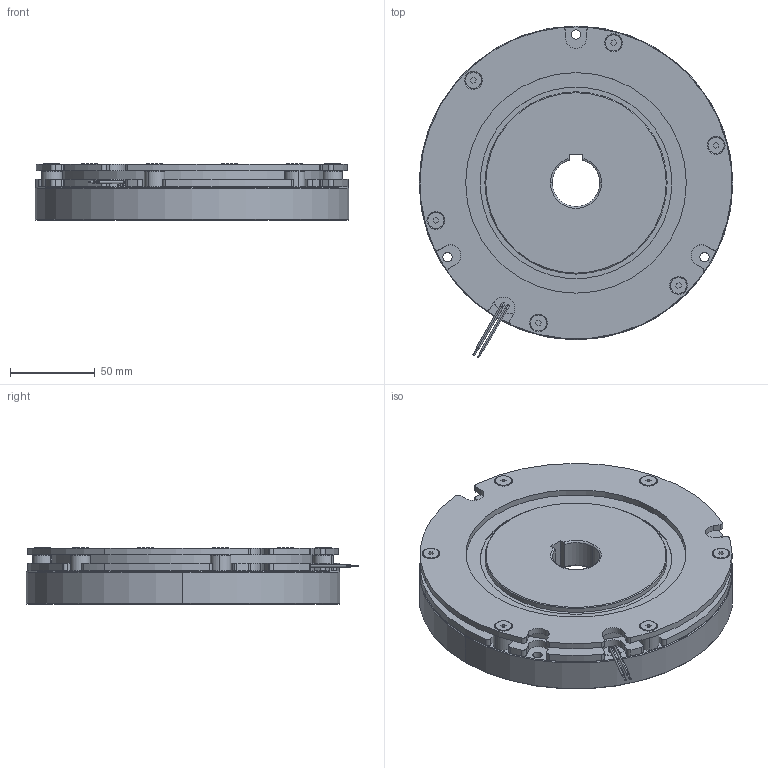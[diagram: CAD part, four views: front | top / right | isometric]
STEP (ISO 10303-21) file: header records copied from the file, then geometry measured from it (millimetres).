
FILE_DESCRIPTION (( 'STEP AP214' ), '1' );
FILE_NAME ('ÌÞÚ°·_BXR-16-20_A.STEP', '2017-08-08T10:57:58', ( 'MIKI' ), ( '' ), 'SwSTEP 2.0', 'SolidWorks 2012', '' );
FILE_SCHEMA (( 'AUTOMOTIVE_DESIGN' ));
Length unit declared in the file: millimetre
Products named in the file (1): 枌痚愷BXR-16-20_A
Bounding box: 185 x 195.69 x 33.11 mm (x, y, z)
Volume: 652754.6 mm3; surface area: 150988.4 mm2
Topology: 1 solids, 7 shells, 461 faces, 1110 edges, 712 vertices
Faces by surface type: cylinder 232, plane 130, cone 85, torus 14
Entity records: 18819 total; most frequent: DIRECTION 2616, CARTESIAN_POINT 2322, ORIENTED_EDGE 2220, EDGE_CURVE 1110, AXIS2_PLACEMENT_3D 1050, VERTEX_POINT 712, CIRCLE 588, EDGE_LOOP 560
